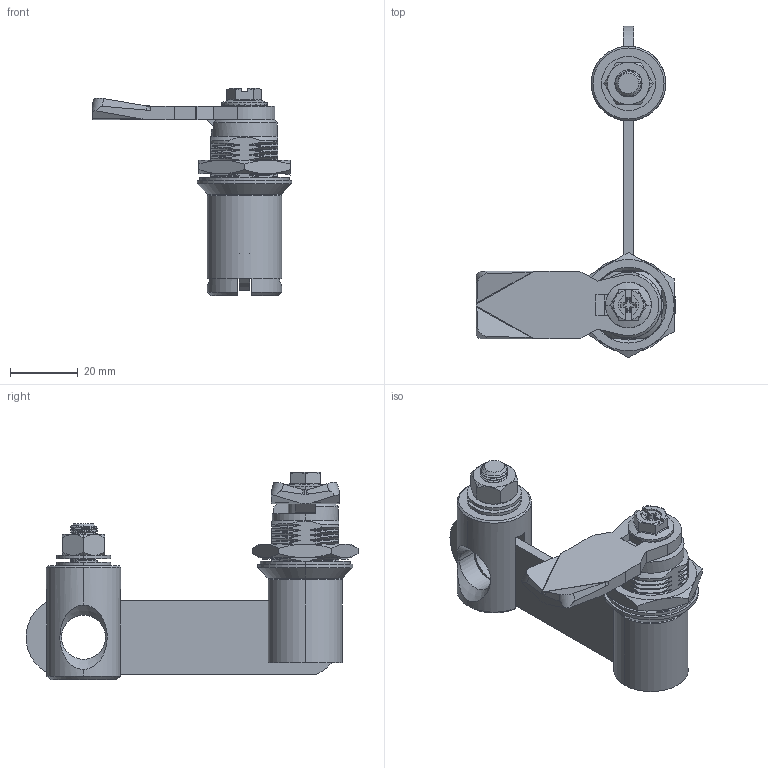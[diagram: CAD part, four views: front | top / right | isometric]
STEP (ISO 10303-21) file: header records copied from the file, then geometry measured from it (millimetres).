
FILE_DESCRIPTION((''),'2;1');
FILE_NAME('ASM0001_ASM','2016-07-13T',('Administrator'),(''),'PRO/ENGINEER BY PARAMETRIC TECHNOLOGY CORPORATION, 2009060','PRO/ENGINEER BY PARAMETRIC TECHNOLOGY CORPORATION, 2009060','');
FILE_SCHEMA(('CONFIG_CONTROL_DESIGN'));
Length unit declared in the file: millimetre
Products named in the file (14): SHOUB; SUOBAN; 8SJ-705-001; GUASUOZHOU; PINGDIANPIAN; LUOMU; 8SJ-DS1B-0001; SW6X8; O-RING-D15X1_9; GASKET; 07; TANXINGXIAO; WADIAN; ASM0001_ASM
Assembly tree (14 placements, depth 2):
  ASM0001_ASM
    SHOUB
    SUOBAN
    8SJ-705-001
    GUASUOZHOU
    PINGDIANPIAN  x2
    LUOMU
    8SJ-DS1B-0001
    SW6X8
    O-RING-D15X1_9
    GASKET
    07
    TANXINGXIAO
    WADIAN
Bounding box: 59 x 98.09 x 61.2 mm (x, y, z)
Volume: 37214 mm3; surface area: 23140.9 mm2
Topology: 14 solids, 14 shells, 765 faces, 1918 edges, 1182 vertices
Faces by surface type: bspline 247, cylinder 205, plane 181, cone 56, sphere 48, torus 28
Entity records: 47217 total; most frequent: CARTESIAN_POINT 30862, ORIENTED_EDGE 3808, DIRECTION 2674, EDGE_CURVE 1904, VERTEX_POINT 1174, AXIS2_PLACEMENT_3D 1030, B_SPLINE_CURVE_WITH_KNOTS 800, EDGE_LOOP 788
